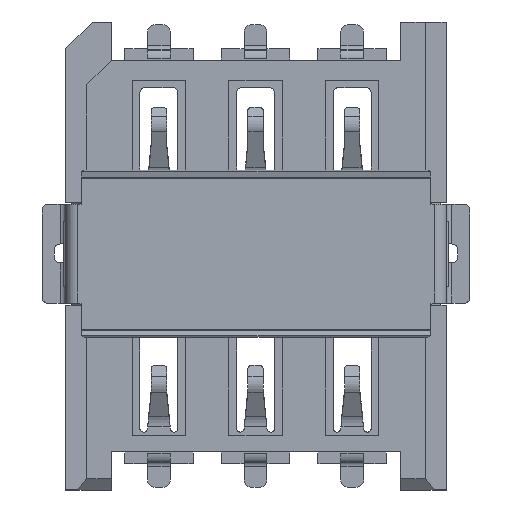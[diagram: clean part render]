
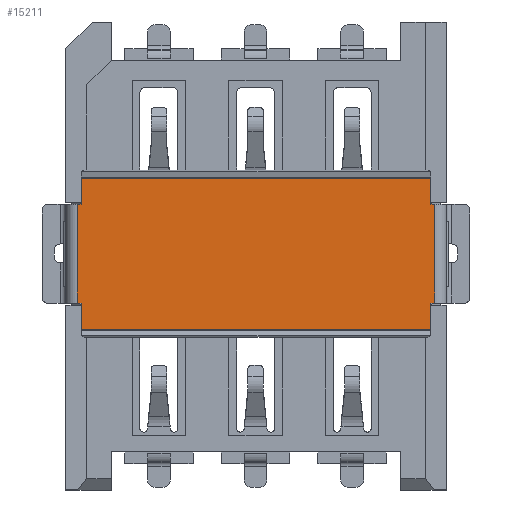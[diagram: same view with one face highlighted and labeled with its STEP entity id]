
A CAD part, top view. The second image highlights one B-rep face of the part: STEP entity #15211.
In plain terms, the highlighted planar face has unit normal (0, 0, -1).
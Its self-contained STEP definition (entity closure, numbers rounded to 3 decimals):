
#12780=DIRECTION('',(-1.,0.,0.));
#12781=VECTOR('',#12780,0.1);
#12782=CARTESIAN_POINT('',(-66.407,52.827,
0.9));
#12783=LINE('',#12782,#12781);
#12896=DIRECTION('',(-1.,0.,0.));
#12897=VECTOR('',#12896,0.1);
#12898=CARTESIAN_POINT('',(-66.407,55.427,
0.9));
#12899=LINE('',#12898,#12897);
#13065=DIRECTION('',(0.,1.,0.));
#13066=VECTOR('',#13065,0.685);
#13067=CARTESIAN_POINT('',(-57.207,52.141,0.9));
#13068=LINE('',#13067,#13066);
#13117=DIRECTION('',(-1.,0.,0.));
#13118=VECTOR('',#13117,0.1);
#13119=CARTESIAN_POINT('',(-57.107,52.827,
0.9));
#13120=LINE('',#13119,#13118);
#13244=DIRECTION('',(-1.,0.,0.));
#13245=VECTOR('',#13244,0.1);
#13246=CARTESIAN_POINT('',(-57.107,55.427,
0.9));
#13247=LINE('',#13246,#13245);
#13549=DIRECTION('',(0.,-1.,0.));
#13550=VECTOR('',#13549,2.6);
#13551=CARTESIAN_POINT('',(-57.107,55.427,
0.9));
#13552=LINE('',#13551,#13550);
#13553=DIRECTION('',(0.,-1.,0.));
#13554=VECTOR('',#13553,0.685);
#13555=CARTESIAN_POINT('',(-57.207,56.112,0.9));
#13556=LINE('',#13555,#13554);
#13557=DIRECTION('',(1.,0.,0.));
#13558=VECTOR('',#13557,9.2);
#13559=CARTESIAN_POINT('',(-66.407,56.112,0.9));
#13560=LINE('',#13559,#13558);
#13561=DIRECTION('',(0.,1.,0.));
#13562=VECTOR('',#13561,0.685);
#13563=CARTESIAN_POINT('',(-66.407,55.427,
0.9));
#13564=LINE('',#13563,#13562);
#13565=DIRECTION('',(0.,1.,0.));
#13566=VECTOR('',#13565,2.6);
#13567=CARTESIAN_POINT('',(-66.507,52.827,
0.9));
#13568=LINE('',#13567,#13566);
#13569=DIRECTION('',(0.,1.,0.));
#13570=VECTOR('',#13569,0.685);
#13571=CARTESIAN_POINT('',(-66.407,52.141,0.9));
#13572=LINE('',#13571,#13570);
#13573=DIRECTION('',(-1.,0.,0.));
#13574=VECTOR('',#13573,9.2);
#13575=CARTESIAN_POINT('',(-57.207,52.141,0.9));
#13576=LINE('',#13575,#13574);
#14007=CARTESIAN_POINT('',(-66.507,52.827,0.9));
#14008=VERTEX_POINT('',#14007);
#14009=CARTESIAN_POINT('',(-66.407,52.827,
0.9));
#14010=VERTEX_POINT('',#14009);
#14088=CARTESIAN_POINT('',(-66.507,55.427,0.9));
#14089=VERTEX_POINT('',#14088);
#14090=CARTESIAN_POINT('',(-66.407,55.427,
0.9));
#14091=VERTEX_POINT('',#14090);
#14122=CARTESIAN_POINT('',(-57.207,52.827,0.9));
#14123=VERTEX_POINT('',#14122);
#14124=CARTESIAN_POINT('',(-57.207,52.141,0.9));
#14125=VERTEX_POINT('',#14124);
#14142=CARTESIAN_POINT('',(-57.107,52.827,
0.9));
#14143=VERTEX_POINT('',#14142);
#14254=CARTESIAN_POINT('',(-57.207,55.427,0.9));
#14255=VERTEX_POINT('',#14254);
#14256=CARTESIAN_POINT('',(-57.107,55.427,
0.9));
#14257=VERTEX_POINT('',#14256);
#14258=CARTESIAN_POINT('',(-57.207,56.112,0.9));
#14259=VERTEX_POINT('',#14258);
#14260=CARTESIAN_POINT('',(-66.407,56.112,0.9));
#14261=VERTEX_POINT('',#14260);
#14262=CARTESIAN_POINT('',(-66.407,52.141,0.9));
#14263=VERTEX_POINT('',#14262);
#15186=CARTESIAN_POINT('',(-61.807,54.127,
0.9));
#15187=DIRECTION('',(0.,0.,1.));
#15188=DIRECTION('',(0.707,-0.707,0.));
#15189=AXIS2_PLACEMENT_3D('',#15186,#15187,#15188);
#15190=PLANE('',#15189);
#15191=ORIENTED_EDGE('',*,*,#15181,.F.);
#15192=ORIENTED_EDGE('',*,*,#14807,.T.);
#15194=ORIENTED_EDGE('',*,*,#15193,.F.);
#15196=ORIENTED_EDGE('',*,*,#15195,.F.);
#15198=ORIENTED_EDGE('',*,*,#15197,.F.);
#15199=ORIENTED_EDGE('',*,*,#14496,.T.);
#15201=ORIENTED_EDGE('',*,*,#15200,.F.);
#15202=ORIENTED_EDGE('',*,*,#14380,.F.);
#15204=ORIENTED_EDGE('',*,*,#15203,.F.);
#15206=ORIENTED_EDGE('',*,*,#15205,.F.);
#15207=ORIENTED_EDGE('',*,*,#14649,.T.);
#15208=ORIENTED_EDGE('',*,*,#14682,.F.);
#15209=EDGE_LOOP('',(#15191,#15192,#15194,#15196,#15198,#15199,#15201,#15202,
#15204,#15206,#15207,#15208));
#15210=FACE_OUTER_BOUND('',#15209,.F.);
#14380=EDGE_CURVE('',#14010,#14008,#12783,.T.);
#14496=EDGE_CURVE('',#14091,#14089,#12899,.T.);
#14649=EDGE_CURVE('',#14125,#14123,#13068,.T.);
#14682=EDGE_CURVE('',#14143,#14123,#13120,.T.);
#14807=EDGE_CURVE('',#14257,#14255,#13247,.T.);
#15181=EDGE_CURVE('',#14257,#14143,#13552,.T.);
#15193=EDGE_CURVE('',#14259,#14255,#13556,.T.);
#15195=EDGE_CURVE('',#14261,#14259,#13560,.T.);
#15197=EDGE_CURVE('',#14091,#14261,#13564,.T.);
#15200=EDGE_CURVE('',#14008,#14089,#13568,.T.);
#15203=EDGE_CURVE('',#14263,#14010,#13572,.T.);
#15205=EDGE_CURVE('',#14125,#14263,#13576,.T.);
#15211=ADVANCED_FACE('',(#15210),#15190,.F.);
